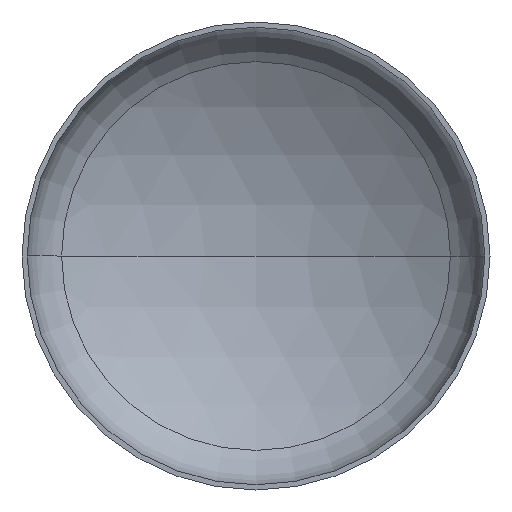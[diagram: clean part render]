
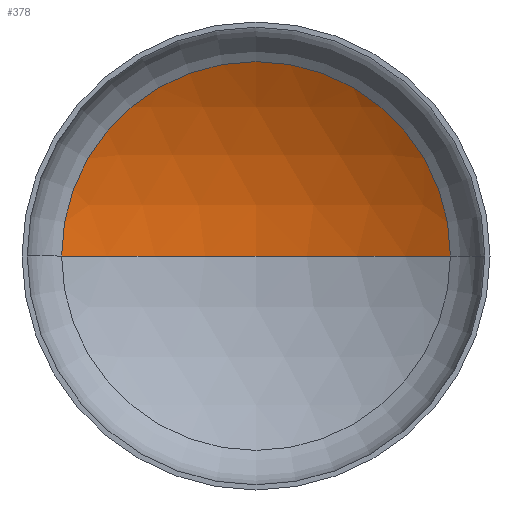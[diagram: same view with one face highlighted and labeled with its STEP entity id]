
A CAD part, front view. The second image highlights one B-rep face of the part: STEP entity #378.
In plain terms, the highlighted spherical face has radius 1440 mm.
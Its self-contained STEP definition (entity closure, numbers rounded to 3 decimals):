
#3 = AXIS2_PLACEMENT_3D ( 'NONE', #89, #284, #116 ) ;
#25 = AXIS2_PLACEMENT_3D ( 'NONE', #367, #191, #392 ) ;
#30 = AXIS2_PLACEMENT_3D ( 'NONE', #106, #304, #136 ) ;
#44 = VERTEX_POINT ( 'NONE', #155 ) ;
#66 = EDGE_CURVE ( 'NONE', #385, #329, #263, .T. ) ;
#67 = EDGE_CURVE ( 'NONE', #44, #385, #185, .T. ) ;
#89 = CARTESIAN_POINT ( 'NONE',  ( 0., -935.59, 0. ) ) ;
#106 = CARTESIAN_POINT ( 'NONE',  ( 0., 295.011, 0. ) ) ;
#113 = CARTESIAN_POINT ( 'NONE',  ( -747.811, 295.011, 0. ) ) ;
#116 = DIRECTION ( 'NONE',  ( 1., 0., 0. ) ) ;
#117 = DIRECTION ( 'NONE',  ( 0., 0., -1. ) ) ;
#136 = DIRECTION ( 'NONE',  ( 1., 0., 0. ) ) ;
#150 = AXIS2_PLACEMENT_3D ( 'NONE', #404, #117, #234 ) ;
#155 = CARTESIAN_POINT ( 'NONE',  ( 0., 504.41, 0. ) ) ;
#173 = ORIENTED_EDGE ( 'NONE', *, *, #67, .T. ) ;
#185 = CIRCLE ( 'NONE', #25, 1440. ) ;
#191 = DIRECTION ( 'NONE',  ( 0., 0., -1. ) ) ;
#199 = SPHERICAL_SURFACE ( 'NONE', #150, 1440. ) ;
#216 = CIRCLE ( 'NONE', #3, 1440. ) ;
#234 = DIRECTION ( 'NONE',  ( -1., 0., 0. ) ) ;
#259 = CARTESIAN_POINT ( 'NONE',  ( 747.811, 295.011, 0. ) ) ;
#263 = CIRCLE ( 'NONE', #30, 747.811 ) ;
#284 = DIRECTION ( 'NONE',  ( 0., 0., 1. ) ) ;
#288 = ORIENTED_EDGE ( 'NONE', *, *, #66, .T. ) ;
#304 = DIRECTION ( 'NONE',  ( 0., -1., 0. ) ) ;
#326 = EDGE_CURVE ( 'NONE', #44, #329, #216, .T. ) ;
#329 = VERTEX_POINT ( 'NONE', #113 ) ;
#350 = EDGE_LOOP ( 'NONE', ( #361, #173, #288 ) ) ;
#355 = FACE_OUTER_BOUND ( 'NONE', #350, .T. ) ;
#361 = ORIENTED_EDGE ( 'NONE', *, *, #326, .F. ) ;
#367 = CARTESIAN_POINT ( 'NONE',  ( 0., -935.59, 0. ) ) ;
#378 = ADVANCED_FACE ( 'NONE', ( #355 ), #199, .F. ) ;
#385 = VERTEX_POINT ( 'NONE', #259 ) ;
#392 = DIRECTION ( 'NONE',  ( -1., 0., 0. ) ) ;
#404 = CARTESIAN_POINT ( 'NONE',  ( 0., -935.59, 0. ) ) ;
